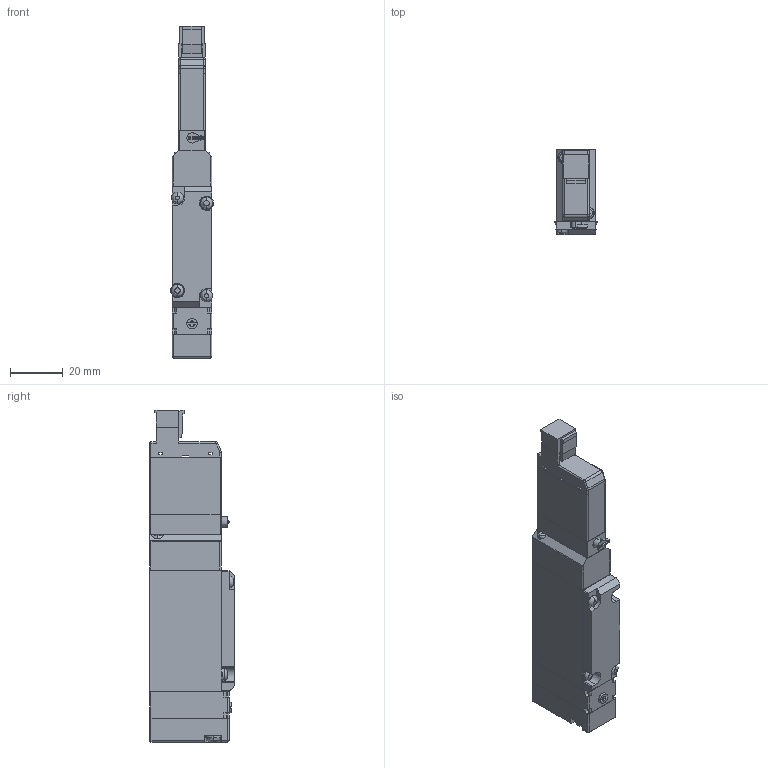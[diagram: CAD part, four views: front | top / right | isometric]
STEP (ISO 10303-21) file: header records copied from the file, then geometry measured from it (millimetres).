
FILE_DESCRIPTION( (''), '2;1');
FILE_NAME ('CVICAD02.3360.F15T2-R-A1-PS_21802.stp','2021-07-12T19:14:24',(''),(''),'spGate 12.6.6','','');
FILE_SCHEMA (('AUTOMOTIVE_DESIGN'));
Length unit declared in the file: millimetre
Products named in the file (8): Assembly; CVICAD02-prt0; CVICAD02-prt1; CVICAD02-prt2; CVICAD02-prt3; CVICAD02-prt4; CVICAD02-prt5; CVICAD02-prt6
Assembly tree (7 placements, depth 2):
  Assembly
    CVICAD02-prt0
    CVICAD02-prt1
    CVICAD02-prt2
    CVICAD02-prt3
    CVICAD02-prt4
    CVICAD02-prt5
    CVICAD02-prt6
Bounding box: 16.2 x 32 x 125.5 mm (x, y, z)
Volume: 45236.4 mm3; surface area: 17589.4 mm2
Topology: 7 solids, 7 shells, 350 faces, 904 edges, 571 vertices
Faces by surface type: plane 192, cylinder 123, bspline 26, sphere 9
Entity records: 18256 total; most frequent: CARTESIAN_POINT 2556, ORIENTED_EDGE 1782, DIRECTION 1697, COLOUR_RGB 1248, PRESENTATION_STYLE_ASSIGNMENT 1248, STYLED_ITEM 1248, EDGE_CURVE 891, DRAUGHTING_PRE_DEFINED_CURVE_FONT 891
